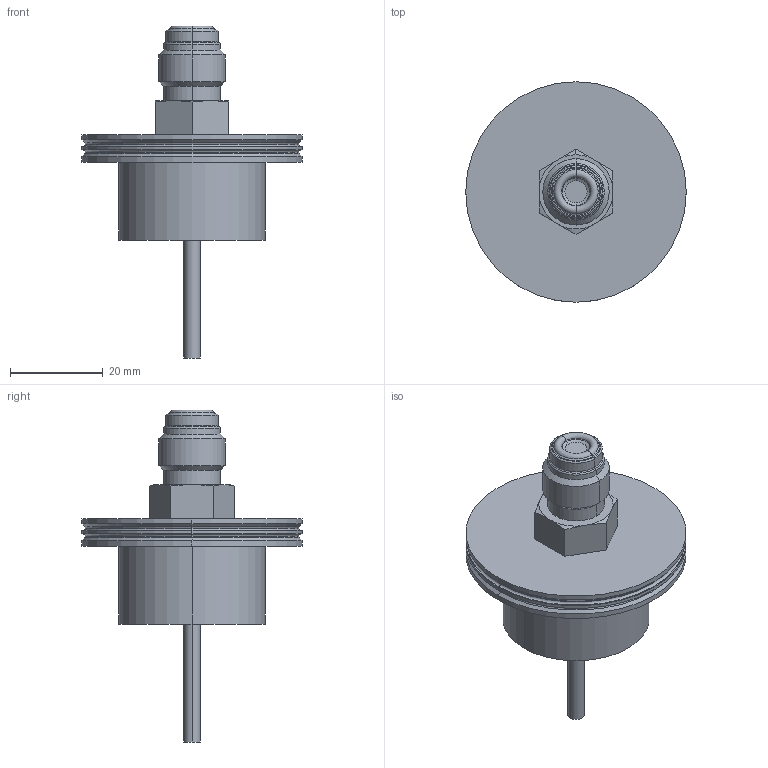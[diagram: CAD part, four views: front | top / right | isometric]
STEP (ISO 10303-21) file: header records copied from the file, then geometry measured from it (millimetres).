
FILE_DESCRIPTION (( 'STEP AP214' ), '1' );
FILE_NAME ('P48W VCR WIRES.STEP', '2008-01-14T13:21:34', ( 'Authorized User' ), ( 'Precision Sensors' ), 'SwSTEP 2.0', 'SolidWorks 2006303', '' );
FILE_SCHEMA (( 'AUTOMOTIVE_DESIGN' ));
Length unit declared in the file: inch
Products named in the file (1): P48W VCR WIRES
Bounding box: 47.5 x 47.5 x 71.52 mm (x, y, z)
Volume: 27283.5 mm3; surface area: 7675.4 mm2
Topology: 1 solids, 1 shells, 70 faces, 148 edges, 87 vertices
Faces by surface type: torus 20, cylinder 18, cone 17, plane 15
Entity records: 1920 total; most frequent: DIRECTION 367, CARTESIAN_POINT 342, ORIENTED_EDGE 296, AXIS2_PLACEMENT_3D 160, EDGE_CURVE 148, CIRCLE 89, VERTEX_POINT 87, EDGE_LOOP 77
